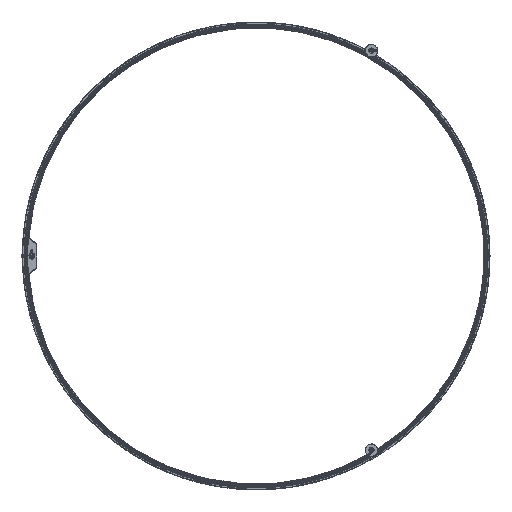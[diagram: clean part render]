
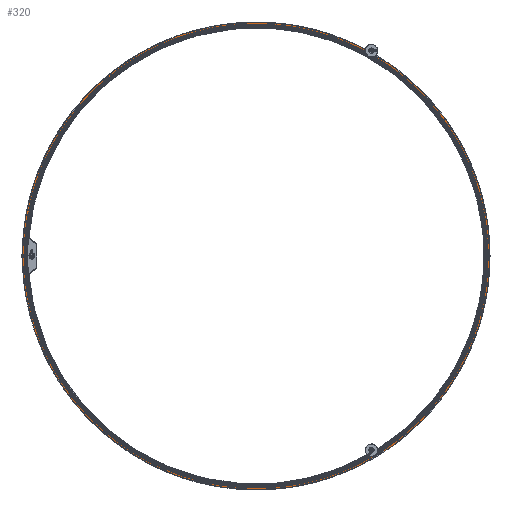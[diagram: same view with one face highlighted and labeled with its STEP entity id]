
A CAD part, top view. The second image highlights one B-rep face of the part: STEP entity #320.
In plain terms, the highlighted planar face has unit normal (0, 0, 1) as drawn and (0, 1, 0) by its records, which use the part's own axes.
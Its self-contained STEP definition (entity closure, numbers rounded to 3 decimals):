
#320=ADVANCED_FACE('',(#744),#6214,.T.);
#744=FACE_OUTER_BOUND('',#1183,.T.);
#1183=EDGE_LOOP('',(#2213,#2214,#2215,#2216,#2217,#2218,#2219,#2220));
#2213=ORIENTED_EDGE('',*,*,#3948,.T.);
#2214=ORIENTED_EDGE('',*,*,#4004,.T.);
#2215=ORIENTED_EDGE('',*,*,#3813,.F.);
#2216=ORIENTED_EDGE('',*,*,#3817,.F.);
#2217=ORIENTED_EDGE('',*,*,#3981,.T.);
#2218=ORIENTED_EDGE('',*,*,#3809,.F.);
#2219=ORIENTED_EDGE('',*,*,#3805,.T.);
#2220=ORIENTED_EDGE('',*,*,#4006,.T.);
#3805=EDGE_CURVE('',#5772,#5775,#5186,.T.);
#3809=EDGE_CURVE('',#5772,#5776,#5190,.T.);
#3813=EDGE_CURVE('',#5779,#5780,#5194,.T.);
#3817=EDGE_CURVE('',#5783,#5779,#5198,.T.);
#3948=EDGE_CURVE('',#5866,#5867,#4690,.T.);
#3981=EDGE_CURVE('',#5783,#5776,#4709,.T.);
#4004=EDGE_CURVE('',#5867,#5780,#5314,.T.);
#4006=EDGE_CURVE('',#5775,#5866,#5316,.T.);
#4690=B_SPLINE_CURVE_WITH_KNOTS('',1,(#17085,#17086),.UNSPECIFIED.,.F.,
 .F.,(2,2),(0.,3.6),.UNSPECIFIED.);
#4709=B_SPLINE_CURVE_WITH_KNOTS('',1,(#17165,#17166),.UNSPECIFIED.,.F.,
 .F.,(2,2),(-3.6,0.),.UNSPECIFIED.);
#5186=(
BOUNDED_CURVE()
B_SPLINE_CURVE(2,(#16598,#16599,#16600,#16601,#16602),.UNSPECIFIED.,.F.,
 .F.)
B_SPLINE_CURVE_WITH_KNOTS((3,2,3),(0.,579.31,1158.619),
 .UNSPECIFIED.)
CURVE()
GEOMETRIC_REPRESENTATION_ITEM()
RATIONAL_B_SPLINE_CURVE((1.,0.707,1.,0.707,1.))
REPRESENTATION_ITEM('')
);
#5190=(
BOUNDED_CURVE()
B_SPLINE_CURVE(2,(#16614,#16615,#16616),.UNSPECIFIED.,.F.,.F.)
B_SPLINE_CURVE_WITH_KNOTS((3,3),(0.,578.666),.UNSPECIFIED.)
CURVE()
GEOMETRIC_REPRESENTATION_ITEM()
RATIONAL_B_SPLINE_CURVE((1.,0.708,1.))
REPRESENTATION_ITEM('')
);
#5194=(
BOUNDED_CURVE()
B_SPLINE_CURVE(2,(#16628,#16629,#16630,#16631,#16632),.UNSPECIFIED.,.F.,
 .F.)
B_SPLINE_CURVE_WITH_KNOTS((3,2,3),(0.,573.655,1147.31),
 .UNSPECIFIED.)
CURVE()
GEOMETRIC_REPRESENTATION_ITEM()
RATIONAL_B_SPLINE_CURVE((1.,0.707,1.,0.707,1.))
REPRESENTATION_ITEM('')
);
#5198=(
BOUNDED_CURVE()
B_SPLINE_CURVE(2,(#16642,#16643,#16644),.UNSPECIFIED.,.F.,.F.)
B_SPLINE_CURVE_WITH_KNOTS((3,3),(0.,573.017),.UNSPECIFIED.)
CURVE()
GEOMETRIC_REPRESENTATION_ITEM()
RATIONAL_B_SPLINE_CURVE((1.,0.708,1.))
REPRESENTATION_ITEM('')
);
#5314=(
BOUNDED_CURVE()
B_SPLINE_CURVE(2,(#17224,#17225,#17226),.UNSPECIFIED.,.F.,.F.)
B_SPLINE_CURVE_WITH_KNOTS((3,3),(-2294.619,-1720.964),
 .UNSPECIFIED.)
CURVE()
GEOMETRIC_REPRESENTATION_ITEM()
RATIONAL_B_SPLINE_CURVE((1.,0.707,1.))
REPRESENTATION_ITEM('')
);
#5316=(
BOUNDED_CURVE()
B_SPLINE_CURVE(2,(#17230,#17231,#17232),.UNSPECIFIED.,.F.,.F.)
B_SPLINE_CURVE_WITH_KNOTS((3,3),(-579.31,0.),.UNSPECIFIED.)
CURVE()
GEOMETRIC_REPRESENTATION_ITEM()
RATIONAL_B_SPLINE_CURVE((1.,0.707,1.))
REPRESENTATION_ITEM('')
);
#5772=VERTEX_POINT('',#16297);
#5775=VERTEX_POINT('',#16300);
#5776=VERTEX_POINT('',#16301);
#5779=VERTEX_POINT('',#16304);
#5780=VERTEX_POINT('',#16305);
#5783=VERTEX_POINT('',#16308);
#5866=VERTEX_POINT('',#16391);
#5867=VERTEX_POINT('',#16392);
#6214=PLANE('',#6837);
#6837=AXIS2_PLACEMENT_3D('',#14685,#6993,$);
#6993=DIRECTION('',(0.,1.,0.));
#14685=CARTESIAN_POINT('',(-442.56,15.,-442.56));
#16297=CARTESIAN_POINT('',(0.,15.,368.8));
#16300=CARTESIAN_POINT('',(0.,15.,-368.8));
#16301=CARTESIAN_POINT('',(-368.799,15.,0.644));
#16304=CARTESIAN_POINT('',(0.,15.,365.2));
#16305=CARTESIAN_POINT('',(0.,15.,-365.2));
#16308=CARTESIAN_POINT('',(-365.199,15.,0.637));
#16391=CARTESIAN_POINT('',(-368.8,15.,0.));
#16392=CARTESIAN_POINT('',(-365.2,15.,0.));
#16598=CARTESIAN_POINT('',(0.,15.,368.8));
#16599=CARTESIAN_POINT('',(368.8,15.,368.8));
#16600=CARTESIAN_POINT('',(368.8,15.,0.));
#16601=CARTESIAN_POINT('',(368.8,15.,-368.8));
#16602=CARTESIAN_POINT('',(0.,15.,-368.8));
#16614=CARTESIAN_POINT('',(0.,15.,368.8));
#16615=CARTESIAN_POINT('',(-368.157,15.,368.8));
#16616=CARTESIAN_POINT('',(-368.799,15.,0.644));
#16628=CARTESIAN_POINT('',(0.,15.,365.2));
#16629=CARTESIAN_POINT('',(365.2,15.,365.2));
#16630=CARTESIAN_POINT('',(365.2,15.,0.));
#16631=CARTESIAN_POINT('',(365.2,15.,-365.2));
#16632=CARTESIAN_POINT('',(0.,15.,-365.2));
#16642=CARTESIAN_POINT('',(-365.199,15.,0.637));
#16643=CARTESIAN_POINT('',(-364.563,15.,365.2));
#16644=CARTESIAN_POINT('',(0.,15.,365.2));
#17085=CARTESIAN_POINT('',(-368.8,15.,0.));
#17086=CARTESIAN_POINT('',(-365.2,15.,0.));
#17165=CARTESIAN_POINT('',(-365.199,15.,0.637));
#17166=CARTESIAN_POINT('',(-368.799,15.,0.644));
#17224=CARTESIAN_POINT('',(-365.2,15.,0.));
#17225=CARTESIAN_POINT('',(-365.2,15.,-365.2));
#17226=CARTESIAN_POINT('',(0.,15.,-365.2));
#17230=CARTESIAN_POINT('',(0.,15.,-368.8));
#17231=CARTESIAN_POINT('',(-368.8,15.,-368.8));
#17232=CARTESIAN_POINT('',(-368.8,15.,0.));
